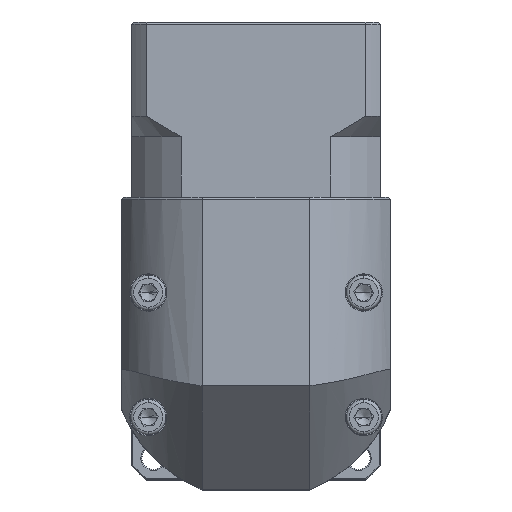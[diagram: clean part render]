
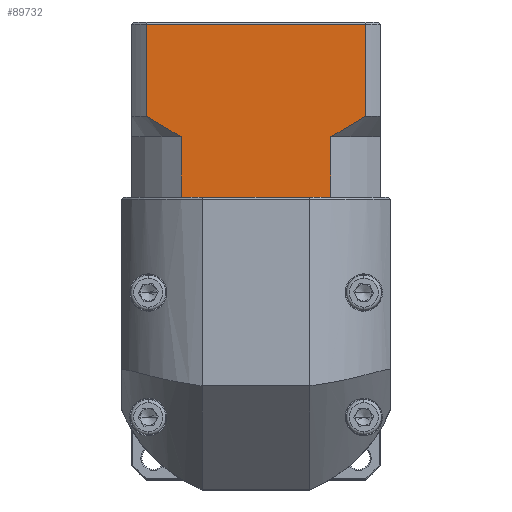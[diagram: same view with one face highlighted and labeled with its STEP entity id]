
A CAD part, top view. The second image highlights one B-rep face of the part: STEP entity #89732.
In plain terms, the highlighted planar face has unit normal (0, 0, 1).
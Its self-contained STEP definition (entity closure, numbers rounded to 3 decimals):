
#834 = DIRECTION ( 'NONE',  ( 0., -1., 0. ) ) ;
#2357 = CARTESIAN_POINT ( 'NONE',  ( -20.495, 60.544, 46.008 ) ) ;
#5152 = PLANE ( 'NONE',  #86576 ) ;
#6639 = CARTESIAN_POINT ( 'NONE',  ( -73.41, 60.544, 46.008 ) ) ;
#9179 = ORIENTED_EDGE ( 'NONE', *, *, #57185, .F. ) ;
#9714 = VERTEX_POINT ( 'NONE', #27686 ) ;
#10029 = CARTESIAN_POINT ( 'NONE',  ( -20.495, 60.544, 46.008 ) ) ;
#10322 = VERTEX_POINT ( 'NONE', #2357 ) ;
#13634 = CARTESIAN_POINT ( 'NONE',  ( -72.05, 59.645, 46.008 ) ) ;
#13893 = EDGE_LOOP ( 'NONE', ( #9179, #20936, #18320, #108484, #68879, #48530, #14424, #54422, #87850, #100436 ) ) ;
#14343 = VERTEX_POINT ( 'NONE', #56795 ) ;
#14424 = ORIENTED_EDGE ( 'NONE', *, *, #107998, .T. ) ;
#14756 = CARTESIAN_POINT ( 'NONE',  ( -67.863, 57.096, 46.008 ) ) ;
#15206 = DIRECTION ( 'NONE',  ( 0., 0., -1. ) ) ;
#16079 = CARTESIAN_POINT ( 'NONE',  ( -76.952, 41.044, 46.008 ) ) ;
#18320 = ORIENTED_EDGE ( 'NONE', *, *, #37433, .F. ) ;
#20201 = CARTESIAN_POINT ( 'NONE',  ( -28.924, 55.544, 46.008 ) ) ;
#20692 = CARTESIAN_POINT ( 'NONE',  ( -76.952, 41.044, 46.008 ) ) ;
#20936 = ORIENTED_EDGE ( 'NONE', *, *, #101709, .T. ) ;
#21827 = EDGE_CURVE ( 'NONE', #52040, #10322, #79563, .T. ) ;
#24446 = CARTESIAN_POINT ( 'NONE',  ( -73.41, 82.744, 46.008 ) ) ;
#24777 = CARTESIAN_POINT ( 'NONE',  ( -76.952, 41.044, 46.008 ) ) ;
#25267 = DIRECTION ( 'NONE',  ( 0., 1., 0. ) ) ;
#25277 = CARTESIAN_POINT ( 'NONE',  ( -73.41, 60.544, 46.008 ) ) ;
#26082 = CARTESIAN_POINT ( 'NONE',  ( -28.924, 55.544, 46.008 ) ) ;
#26195 = VECTOR ( 'NONE', #71819, 1000. ) ;
#26719 = VERTEX_POINT ( 'NONE', #105206 ) ;
#27419 = CARTESIAN_POINT ( 'NONE',  ( -27.468, 56.294, 46.008 ) ) ;
#27686 = CARTESIAN_POINT ( 'NONE',  ( -28.924, 41.044, 46.008 ) ) ;
#29312 = VERTEX_POINT ( 'NONE', #25277 ) ;
#32309 = FACE_OUTER_BOUND ( 'NONE', #13893, .T. ) ;
#32963 = CARTESIAN_POINT ( 'NONE',  ( -66.432, 56.292, 46.008 ) ) ;
#33596 = EDGE_CURVE ( 'NONE', #52040, #9714, #61478, .T. ) ;
#34749 = EDGE_CURVE ( 'NONE', #14343, #57255, #62683, .T. ) ;
#36101 = CARTESIAN_POINT ( 'NONE',  ( -73.41, 55.544, 46.008 ) ) ;
#36648 = CARTESIAN_POINT ( 'NONE',  ( -29.915, 41.044, 46.008 ) ) ;
#37433 = EDGE_CURVE ( 'NONE', #29312, #101999, #85862, .T. ) ;
#37903 = VECTOR ( 'NONE', #834, 1000. ) ;
#38906 = DIRECTION ( 'NONE',  ( 1., 0., 0. ) ) ;
#41879 = CARTESIAN_POINT ( 'NONE',  ( -64.98, 55.544, 46.008 ) ) ;
#45837 = CARTESIAN_POINT ( 'NONE',  ( -63.989, 41.044, 46.008 ) ) ;
#46116 = VERTEX_POINT ( 'NONE', #56348 ) ;
#46837 = CARTESIAN_POINT ( 'NONE',  ( -26.043, 57.095, 46.008 ) ) ;
#48530 = ORIENTED_EDGE ( 'NONE', *, *, #34749, .T. ) ;
#48840 = EDGE_CURVE ( 'NONE', #29312, #26719, #78185, .T. ) ;
#49318 = CARTESIAN_POINT ( 'NONE',  ( -76.952, 82.744, 46.008 ) ) ;
#51015 = LINE ( 'NONE', #49318, #62182 ) ;
#52040 = VERTEX_POINT ( 'NONE', #26082 ) ;
#53132 = VECTOR ( 'NONE', #76978, 1000. ) ;
#54422 = ORIENTED_EDGE ( 'NONE', *, *, #68952, .T. ) ;
#56348 = CARTESIAN_POINT ( 'NONE',  ( -20.495, 82.744, 46.008 ) ) ;
#56795 = CARTESIAN_POINT ( 'NONE',  ( -64.98, 41.044, 46.008 ) ) ;
#57185 = EDGE_CURVE ( 'NONE', #46116, #10322, #110596, .T. ) ;
#57255 = VERTEX_POINT ( 'NONE', #45837 ) ;
#57890 = EDGE_CURVE ( 'NONE', #14343, #26719, #107607, .T. ) ;
#61478 = LINE ( 'NONE', #20201, #37903 ) ;
#62182 = VECTOR ( 'NONE', #66374, 1000. ) ;
#62683 = LINE ( 'NONE', #20692, #64061 ) ;
#63065 = CARTESIAN_POINT ( 'NONE',  ( -21.857, 59.643, 46.008 ) ) ;
#64061 = VECTOR ( 'NONE', #38906, 1000. ) ;
#64620 = CARTESIAN_POINT ( 'NONE',  ( -28.924, 55.544, 46.008 ) ) ;
#66374 = DIRECTION ( 'NONE',  ( -1., 0., 0. ) ) ;
#68879 = ORIENTED_EDGE ( 'NONE', *, *, #57890, .F. ) ;
#68952 = EDGE_CURVE ( 'NONE', #93118, #9714, #86343, .T. ) ;
#70532 = VECTOR ( 'NONE', #95631, 1000. ) ;
#71819 = DIRECTION ( 'NONE',  ( 0., 1., 0. ) ) ;
#76978 = DIRECTION ( 'NONE',  ( 1., 0., 0. ) ) ;
#78185 = B_SPLINE_CURVE_WITH_KNOTS ( 'NONE', 3,
 ( #6639, #13634, #93761, #14756, #32963, #41879 ),
 .UNSPECIFIED., .F., .F.,
 ( 4, 2, 4 ),
 ( 0.052, 0.057, 0.062 ),
 .UNSPECIFIED. ) ;
#79563 = B_SPLINE_CURVE_WITH_KNOTS ( 'NONE', 3,
 ( #64620, #27419, #46837, #89434, #63065, #10029 ),
 .UNSPECIFIED., .F., .F.,
 ( 4, 2, 4 ),
 ( 0.1, 0.104, 0.109 ),
 .UNSPECIFIED. ) ;
#84404 = LINE ( 'NONE', #24777, #70532 ) ;
#85862 = LINE ( 'NONE', #36101, #26195 ) ;
#86343 = LINE ( 'NONE', #16079, #53132 ) ;
#86576 = AXIS2_PLACEMENT_3D ( 'NONE', #104666, #15206, #25267 ) ;
#87117 = VECTOR ( 'NONE', #114767, 1000. ) ;
#87850 = ORIENTED_EDGE ( 'NONE', *, *, #33596, .F. ) ;
#89434 = CARTESIAN_POINT ( 'NONE',  ( -23.237, 58.769, 46.008 ) ) ;
#89643 = VECTOR ( 'NONE', #103350, 1000. ) ;
#89732 = ADVANCED_FACE ( 'NONE', ( #32309 ), #5152, .F. ) ;
#93118 = VERTEX_POINT ( 'NONE', #36648 ) ;
#93761 = CARTESIAN_POINT ( 'NONE',  ( -70.671, 58.771, 46.008 ) ) ;
#95631 = DIRECTION ( 'NONE',  ( 1., 0., 0. ) ) ;
#100436 = ORIENTED_EDGE ( 'NONE', *, *, #21827, .T. ) ;
#101709 = EDGE_CURVE ( 'NONE', #46116, #101999, #51015, .T. ) ;
#101999 = VERTEX_POINT ( 'NONE', #24446 ) ;
#103350 = DIRECTION ( 'NONE',  ( 0., 1., 0. ) ) ;
#104666 = CARTESIAN_POINT ( 'NONE',  ( -76.952, 83.244, 46.008 ) ) ;
#105206 = CARTESIAN_POINT ( 'NONE',  ( -64.98, 55.544, 46.008 ) ) ;
#105504 = CARTESIAN_POINT ( 'NONE',  ( -20.495, 55.544, 46.008 ) ) ;
#107607 = LINE ( 'NONE', #111091, #89643 ) ;
#107998 = EDGE_CURVE ( 'NONE', #57255, #93118, #84404, .T. ) ;
#108484 = ORIENTED_EDGE ( 'NONE', *, *, #48840, .T. ) ;
#110596 = LINE ( 'NONE', #105504, #87117 ) ;
#111091 = CARTESIAN_POINT ( 'NONE',  ( -64.98, 55.544, 46.008 ) ) ;
#114767 = DIRECTION ( 'NONE',  ( 0., -1., 0. ) ) ;
